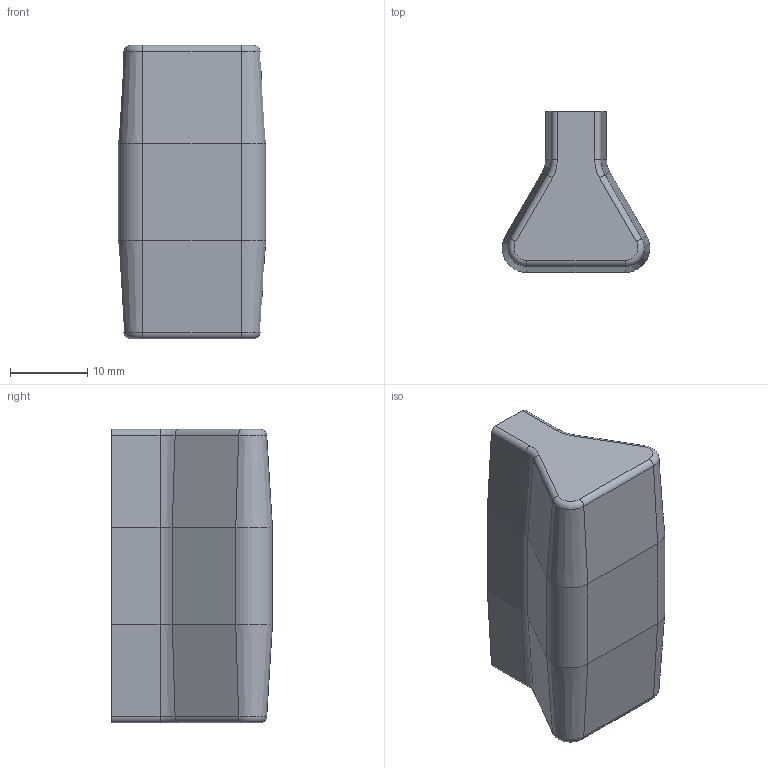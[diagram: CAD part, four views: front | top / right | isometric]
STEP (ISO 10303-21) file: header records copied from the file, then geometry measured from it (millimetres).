
FILE_DESCRIPTION(/* description */ (''),/* implementation_level */ '2;1');
FILE_NAME(/* name */ 'C:\Users\Mark\Desktop\Inventor Projects\Trammel_Projects\Trammel1\Instructables\slide.stp',/* time_stamp */ '2016-02-26T08:44:58-05:00',/* author */ ('Mark'),/* organization */ (''),/* preprocessor_version */ 'ST-DEVELOPER v16.1',/* originating_system */ 'Autodesk Inventor 2016',/* authorisation */ '');
FILE_SCHEMA (('AUTOMOTIVE_DESIGN { 1 0 10303 214 3 1 1 }'));
Length unit declared in the file: inch
Products named in the file (1): slide
Bounding box: 19.16 x 20.89 x 38.1 mm (x, y, z)
Volume: 9218.4 mm3; surface area: 3142.4 mm2
Topology: 1 solids, 1 shells, 53 faces, 118 edges, 68 vertices
Faces by surface type: plane 20, cylinder 16, cone 9, torus 8
Full cylindrical faces by diameter (mm): 2.718 x2
Entity records: 1463 total; most frequent: DIRECTION 270, CARTESIAN_POINT 256, ORIENTED_EDGE 228, EDGE_CURVE 114, AXIS2_PLACEMENT_3D 103, VERTEX_POINT 66, LINE 64, VECTOR 64
